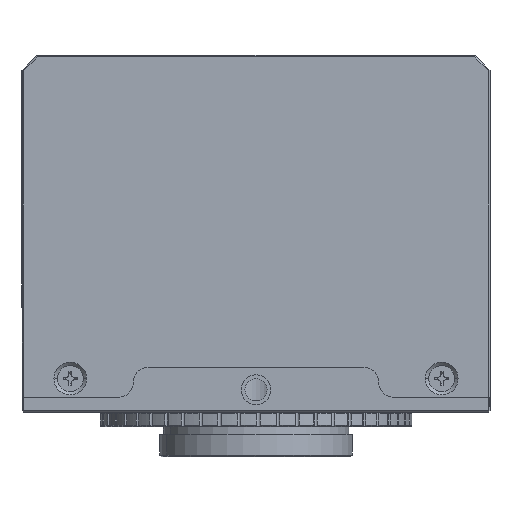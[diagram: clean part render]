
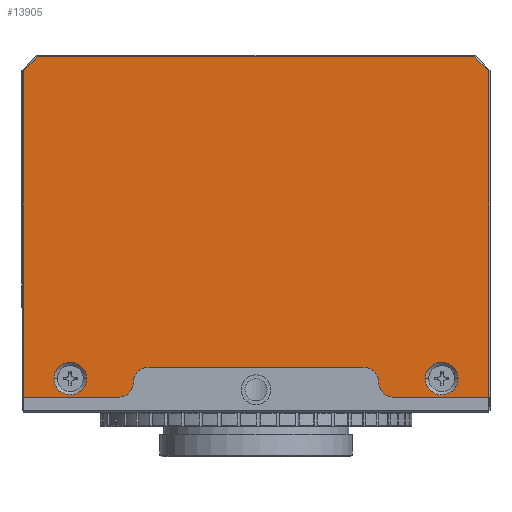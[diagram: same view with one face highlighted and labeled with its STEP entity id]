
A CAD part, front view. The second image highlights one B-rep face of the part: STEP entity #13905.
In plain terms, the highlighted planar face has unit normal (0, -1, 0).
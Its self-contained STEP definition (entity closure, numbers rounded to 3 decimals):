
#303 = CIRCLE ( 'NONE', #5537, 2.2 ) ;
#609 = ORIENTED_EDGE ( 'NONE', *, *, #18359, .T. ) ;
#717 = CARTESIAN_POINT ( 'NONE',  ( -4.121, -36.213, 55.5 ) ) ;
#1046 = ORIENTED_EDGE ( 'NONE', *, *, #11447, .T. ) ;
#1416 = CARTESIAN_POINT ( 'NONE',  ( 0.296, -36.213, 98.8 ) ) ;
#1666 = VERTEX_POINT ( 'NONE', #17523 ) ;
#1955 = AXIS2_PLACEMENT_3D ( 'NONE', #17091, #20656, #19182 ) ;
#2029 = EDGE_CURVE ( 'NONE', #20997, #2792, #2956, .T. ) ;
#2181 = CARTESIAN_POINT ( 'NONE',  ( 2.179, -36.213, 76. ) ) ;
#2391 = AXIS2_PLACEMENT_3D ( 'NONE', #13060, #7735, #21865 ) ;
#2606 = AXIS2_PLACEMENT_3D ( 'NONE', #7998, #13556, #22193 ) ;
#2692 = EDGE_CURVE ( 'NONE', #18414, #10909, #10438, .T. ) ;
#2734 = CARTESIAN_POINT ( 'NONE',  ( -14.621, -36.213, 55. ) ) ;
#2792 = VERTEX_POINT ( 'NONE', #7479 ) ;
#2836 = CARTESIAN_POINT ( 'NONE',  ( 0.238, -36.213, 98.859 ) ) ;
#2956 = CIRCLE ( 'NONE', #17423, 2. ) ;
#3032 = CARTESIAN_POINT ( 'NONE',  ( -60.621, -36.213, 53. ) ) ;
#3218 = CARTESIAN_POINT ( 'NONE',  ( -29.121, -36.213, 98.8 ) ) ;
#3681 = CARTESIAN_POINT ( 'NONE',  ( -60.421, -36.213, 76. ) ) ;
#4372 = CARTESIAN_POINT ( 'NONE',  ( -60.421, -36.213, 53. ) ) ;
#4451 = EDGE_CURVE ( 'NONE', #15363, #19808, #6044, .T. ) ;
#4697 = CARTESIAN_POINT ( 'NONE',  ( -47.621, -36.213, 53. ) ) ;
#4973 = DIRECTION ( 'NONE',  ( 0., -1., 0. ) ) ;
#5207 = ORIENTED_EDGE ( 'NONE', *, *, #4451, .T. ) ;
#5296 = DIRECTION ( 'NONE',  ( -0.707, 0., -0.707 ) ) ;
#5499 = CARTESIAN_POINT ( 'NONE',  ( -1.921, -36.213, 55.5 ) ) ;
#5537 = AXIS2_PLACEMENT_3D ( 'NONE', #717, #12977, #13140 ) ;
#5704 = ORIENTED_EDGE ( 'NONE', *, *, #2692, .T. ) ;
#5711 = CARTESIAN_POINT ( 'NONE',  ( 2.179, -36.213, 96.917 ) ) ;
#6044 = LINE ( 'NONE', #3681, #13553 ) ;
#6073 = AXIS2_PLACEMENT_3D ( 'NONE', #10841, #23112, #21512 ) ;
#6166 = DIRECTION ( 'NONE',  ( 1., 0., 0. ) ) ;
#6259 = LINE ( 'NONE', #3032, #19620 ) ;
#6373 = DIRECTION ( 'NONE',  ( 1., 0., 0. ) ) ;
#6446 = VERTEX_POINT ( 'NONE', #20920 ) ;
#6513 = ORIENTED_EDGE ( 'NONE', *, *, #12418, .F. ) ;
#6531 = CARTESIAN_POINT ( 'NONE',  ( -43.621, -36.213, 55. ) ) ;
#6604 = DIRECTION ( 'NONE',  ( 0., 1., 0. ) ) ;
#6725 = ORIENTED_EDGE ( 'NONE', *, *, #21831, .T. ) ;
#6840 = CARTESIAN_POINT ( 'NONE',  ( -58.538, -36.213, 98.8 ) ) ;
#6992 = AXIS2_PLACEMENT_3D ( 'NONE', #11033, #13465, #6373 ) ;
#7254 = DIRECTION ( 'NONE',  ( 0., 0., -1. ) ) ;
#7479 = CARTESIAN_POINT ( 'NONE',  ( -45.621, -36.213, 55. ) ) ;
#7735 = DIRECTION ( 'NONE',  ( 0., 1., 0. ) ) ;
#7741 = VERTEX_POINT ( 'NONE', #6840 ) ;
#7871 = EDGE_LOOP ( 'NONE', ( #14820, #1046 ) ) ;
#7998 = CARTESIAN_POINT ( 'NONE',  ( -29.121, -36.213, 76. ) ) ;
#8226 = DIRECTION ( 'NONE',  ( 1., 0., 0. ) ) ;
#8267 = VERTEX_POINT ( 'NONE', #1416 ) ;
#8339 = CARTESIAN_POINT ( 'NONE',  ( -12.621, -36.213, 57. ) ) ;
#8768 = ORIENTED_EDGE ( 'NONE', *, *, #21810, .F. ) ;
#8939 = FACE_OUTER_BOUND ( 'NONE', #11749, .T. ) ;
#9062 = LINE ( 'NONE', #8339, #21063 ) ;
#9473 = DIRECTION ( 'NONE',  ( 0., 0., 1. ) ) ;
#9625 = CARTESIAN_POINT ( 'NONE',  ( 2.179, -36.213, 53. ) ) ;
#9632 = VECTOR ( 'NONE', #10136, 1000. ) ;
#9745 = ORIENTED_EDGE ( 'NONE', *, *, #2029, .T. ) ;
#9955 = CARTESIAN_POINT ( 'NONE',  ( -56.321, -36.213, 55.5 ) ) ;
#10136 = DIRECTION ( 'NONE',  ( -0.707, 0., 0.707 ) ) ;
#10266 = CARTESIAN_POINT ( 'NONE',  ( -47.621, -36.213, 55. ) ) ;
#10438 = CIRCLE ( 'NONE', #6073, 2.2 ) ;
#10841 = CARTESIAN_POINT ( 'NONE',  ( -54.121, -36.213, 55.5 ) ) ;
#10909 = VERTEX_POINT ( 'NONE', #19067 ) ;
#11023 = CIRCLE ( 'NONE', #1955, 2.2 ) ;
#11033 = CARTESIAN_POINT ( 'NONE',  ( -10.621, -36.213, 55. ) ) ;
#11410 = EDGE_CURVE ( 'NONE', #6446, #14137, #9062, .T. ) ;
#11418 = EDGE_CURVE ( 'NONE', #15710, #8267, #13540, .T. ) ;
#11447 = EDGE_CURVE ( 'NONE', #19168, #19979, #11023, .T. ) ;
#11689 = PLANE ( 'NONE',  #2606 ) ;
#11749 = EDGE_LOOP ( 'NONE', ( #17861, #5207, #8768, #9745, #21442, #22118, #609, #13888, #6513, #6725, #22263, #19103 ) ) ;
#11861 = EDGE_CURVE ( 'NONE', #2792, #14137, #19656, .T. ) ;
#11929 = CARTESIAN_POINT ( 'NONE',  ( -6.321, -36.213, 55.5 ) ) ;
#12180 = LINE ( 'NONE', #3218, #13023 ) ;
#12296 = CARTESIAN_POINT ( 'NONE',  ( -60.479, -36.213, 96.859 ) ) ;
#12418 = EDGE_CURVE ( 'NONE', #14460, #1666, #6259, .T. ) ;
#12977 = DIRECTION ( 'NONE',  ( 0., 1., 0. ) ) ;
#13023 = VECTOR ( 'NONE', #20888, 1000. ) ;
#13060 = CARTESIAN_POINT ( 'NONE',  ( -54.121, -36.213, 55.5 ) ) ;
#13140 = DIRECTION ( 'NONE',  ( 1., 0., 0. ) ) ;
#13465 = DIRECTION ( 'NONE',  ( 0., -1., 0. ) ) ;
#13540 = LINE ( 'NONE', #2836, #9632 ) ;
#13553 = VECTOR ( 'NONE', #7254, 1000. ) ;
#13556 = DIRECTION ( 'NONE',  ( 0., 1., 0. ) ) ;
#13888 = ORIENTED_EDGE ( 'NONE', *, *, #18789, .T. ) ;
#13905 = ADVANCED_FACE ( 'NONE', ( #22628, #15674, #8939 ), #11689, .F. ) ;
#14137 = VERTEX_POINT ( 'NONE', #17691 ) ;
#14460 = VERTEX_POINT ( 'NONE', #9625 ) ;
#14820 = ORIENTED_EDGE ( 'NONE', *, *, #20299, .T. ) ;
#15052 = DIRECTION ( 'NONE',  ( 0., 1., 0. ) ) ;
#15363 = VERTEX_POINT ( 'NONE', #21050 ) ;
#15500 = DIRECTION ( 'NONE',  ( -1., 0., 0. ) ) ;
#15669 = CIRCLE ( 'NONE', #6992, 2. ) ;
#15674 = FACE_BOUND ( 'NONE', #7871, .T. ) ;
#15710 = VERTEX_POINT ( 'NONE', #5711 ) ;
#17091 = CARTESIAN_POINT ( 'NONE',  ( -4.121, -36.213, 55.5 ) ) ;
#17423 = AXIS2_PLACEMENT_3D ( 'NONE', #10266, #4973, #19227 ) ;
#17523 = CARTESIAN_POINT ( 'NONE',  ( -10.621, -36.213, 53. ) ) ;
#17691 = CARTESIAN_POINT ( 'NONE',  ( -43.621, -36.213, 57. ) ) ;
#17861 = ORIENTED_EDGE ( 'NONE', *, *, #18584, .T. ) ;
#17896 = LINE ( 'NONE', #12296, #19570 ) ;
#18036 = LINE ( 'NONE', #2181, #19696 ) ;
#18359 = EDGE_CURVE ( 'NONE', #6446, #18485, #19855, .T. ) ;
#18370 = CARTESIAN_POINT ( 'NONE',  ( -60.621, -36.213, 53. ) ) ;
#18414 = VERTEX_POINT ( 'NONE', #9955 ) ;
#18485 = VERTEX_POINT ( 'NONE', #19161 ) ;
#18584 = EDGE_CURVE ( 'NONE', #7741, #15363, #17896, .T. ) ;
#18789 = EDGE_CURVE ( 'NONE', #18485, #1666, #15669, .T. ) ;
#19067 = CARTESIAN_POINT ( 'NONE',  ( -51.921, -36.213, 55.5 ) ) ;
#19103 = ORIENTED_EDGE ( 'NONE', *, *, #22591, .T. ) ;
#19161 = CARTESIAN_POINT ( 'NONE',  ( -12.621, -36.213, 55. ) ) ;
#19168 = VERTEX_POINT ( 'NONE', #5499 ) ;
#19182 = DIRECTION ( 'NONE',  ( 1., 0., 0. ) ) ;
#19227 = DIRECTION ( 'NONE',  ( 1., 0., 0. ) ) ;
#19570 = VECTOR ( 'NONE', #5296, 1000. ) ;
#19620 = VECTOR ( 'NONE', #15500, 1000. ) ;
#19656 = CIRCLE ( 'NONE', #21490, 2. ) ;
#19696 = VECTOR ( 'NONE', #9473, 1000. ) ;
#19808 = VERTEX_POINT ( 'NONE', #4372 ) ;
#19855 = CIRCLE ( 'NONE', #22677, 2. ) ;
#19967 = ORIENTED_EDGE ( 'NONE', *, *, #20251, .T. ) ;
#19979 = VERTEX_POINT ( 'NONE', #11929 ) ;
#20224 = DIRECTION ( 'NONE',  ( -1., 0., 0. ) ) ;
#20251 = EDGE_CURVE ( 'NONE', #10909, #18414, #22572, .T. ) ;
#20299 = EDGE_CURVE ( 'NONE', #19979, #19168, #303, .T. ) ;
#20656 = DIRECTION ( 'NONE',  ( 0., 1., 0. ) ) ;
#20812 = DIRECTION ( 'NONE',  ( -1., 0., 0. ) ) ;
#20888 = DIRECTION ( 'NONE',  ( -1., 0., 0. ) ) ;
#20920 = CARTESIAN_POINT ( 'NONE',  ( -14.621, -36.213, 57. ) ) ;
#20997 = VERTEX_POINT ( 'NONE', #4697 ) ;
#21050 = CARTESIAN_POINT ( 'NONE',  ( -60.421, -36.213, 96.917 ) ) ;
#21063 = VECTOR ( 'NONE', #20812, 1000. ) ;
#21376 = VECTOR ( 'NONE', #20224, 1000. ) ;
#21442 = ORIENTED_EDGE ( 'NONE', *, *, #11861, .T. ) ;
#21490 = AXIS2_PLACEMENT_3D ( 'NONE', #6531, #6604, #8226 ) ;
#21512 = DIRECTION ( 'NONE',  ( 1., 0., 0. ) ) ;
#21810 = EDGE_CURVE ( 'NONE', #20997, #19808, #22787, .T. ) ;
#21831 = EDGE_CURVE ( 'NONE', #14460, #15710, #18036, .T. ) ;
#21865 = DIRECTION ( 'NONE',  ( 1., 0., 0. ) ) ;
#22118 = ORIENTED_EDGE ( 'NONE', *, *, #11410, .F. ) ;
#22193 = DIRECTION ( 'NONE',  ( 1., 0., 0. ) ) ;
#22263 = ORIENTED_EDGE ( 'NONE', *, *, #11418, .T. ) ;
#22572 = CIRCLE ( 'NONE', #2391, 2.2 ) ;
#22591 = EDGE_CURVE ( 'NONE', #8267, #7741, #12180, .T. ) ;
#22628 = FACE_BOUND ( 'NONE', #22984, .T. ) ;
#22677 = AXIS2_PLACEMENT_3D ( 'NONE', #2734, #15052, #6166 ) ;
#22787 = LINE ( 'NONE', #18370, #21376 ) ;
#22984 = EDGE_LOOP ( 'NONE', ( #5704, #19967 ) ) ;
#23112 = DIRECTION ( 'NONE',  ( 0., 1., 0. ) ) ;
